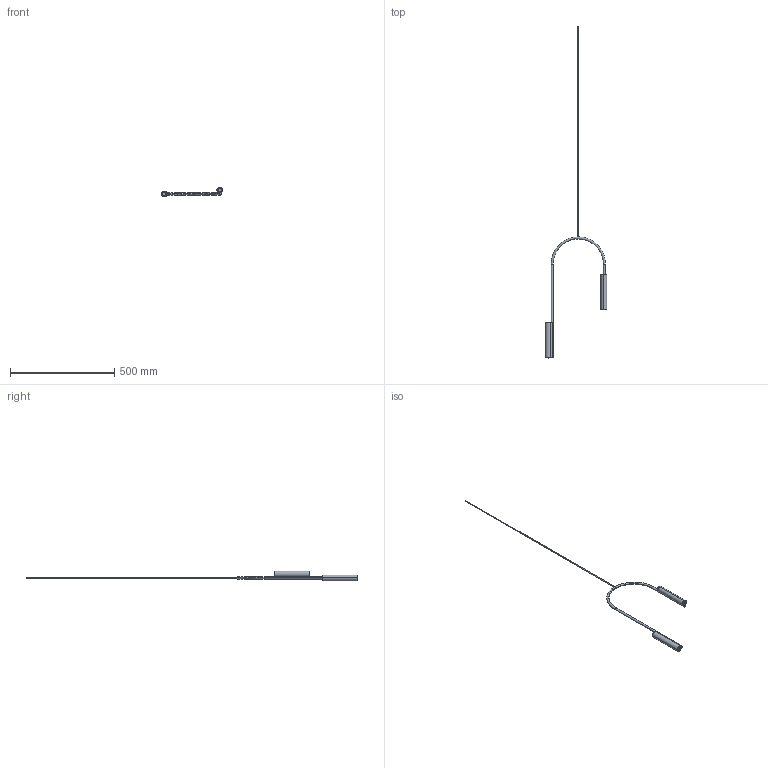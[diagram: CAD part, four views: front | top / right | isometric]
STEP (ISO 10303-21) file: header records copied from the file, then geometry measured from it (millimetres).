
FILE_DESCRIPTION (( 'STEP AP214' ), '1' );
FILE_NAME ('Pop - Pendant A.STEP', '2024-04-08T06:10:00', ( '' ), ( '' ), 'SwSTEP 2.0', 'SolidWorks 2017', '' );
FILE_SCHEMA (( 'AUTOMOTIVE_DESIGN' ));
Length unit declared in the file: millimetre
Products named in the file (1): Pop - Pendant A
Bounding box: 294.48 x 1589.79 x 46.76 mm (x, y, z)
Volume: 228486.9 mm3; surface area: 155161.2 mm2
Topology: 11 solids, 11 shells, 199 faces, 421 edges, 255 vertices
Faces by surface type: cylinder 71, torus 53, plane 33, cone 24, bspline 18
Entity records: 11984 total; most frequent: CARTESIAN_POINT 5328, DIRECTION 991, ORIENTED_EDGE 842, AXIS2_PLACEMENT_3D 449, EDGE_CURVE 421, CIRCLE 267, VERTEX_POINT 255, EDGE_LOOP 220
